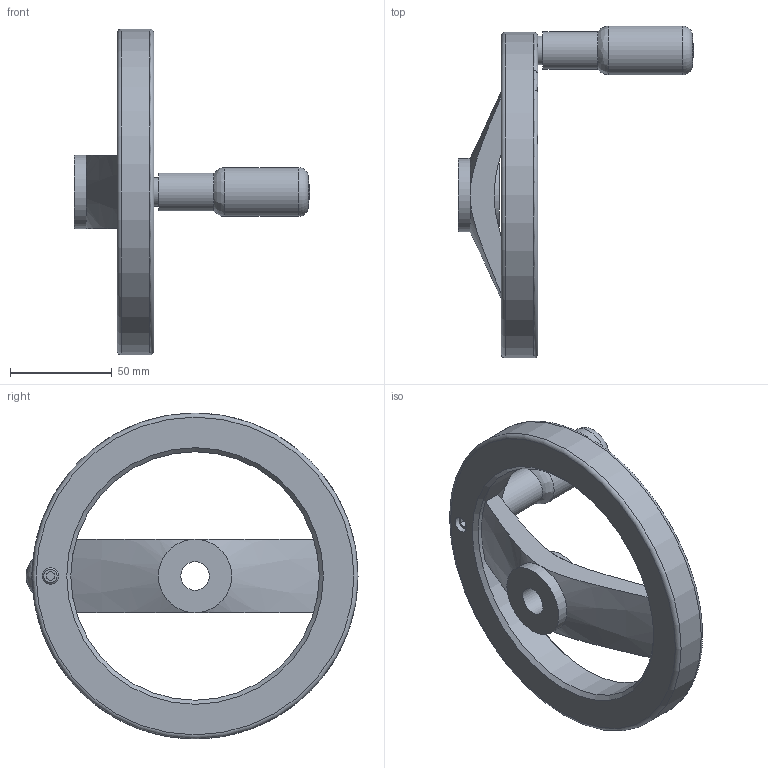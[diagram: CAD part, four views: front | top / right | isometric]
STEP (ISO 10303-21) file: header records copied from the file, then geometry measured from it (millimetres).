
FILE_DESCRIPTION( ( 'STEP AP203' ), '1' );
FILE_NAME( 'C:/Temp/Ganter_Step_05_03_2020/data/1_3/gn_324/gn_324_b/gn_324_b_d/Handwheel, matt black GN 324-160-B14-R.stp', '2020-03-05T10:32:57', ( 'License CC BY-ND 4.0' ), ( 'CADENAS' ), ' ', 'PARTsolutions', ' ' );
FILE_SCHEMA( ( 'CONFIG_CONTROL_DESIGN' ) );
Length unit declared in the file: millimetre
Products named in the file (1): _Handwheel, matt black GN 324-160-B14-R
Bounding box: 115.5 x 163 x 160 mm (x, y, z)
Volume: 228699.2 mm3; surface area: 49511.5 mm2
Topology: 1 solids, 2 shells, 40 faces, 88 edges, 53 vertices
Faces by surface type: plane 16, cylinder 11, cone 8, torus 3, bspline 1, sphere 1
Full cylindrical faces by diameter (mm): 6.446 x1, 8 x2, 14 x2, 18.5 x1, 24 x1, 36 x2, 122 x1, 160 x1
Entity records: 1167 total; most frequent: CARTESIAN_POINT 326, DIRECTION 170, ORIENTED_EDGE 128, AXIS2_PLACEMENT_3D 74, EDGE_LOOP 69, EDGE_CURVE 64, FACE_OUTER_BOUND 55, VERTEX_POINT 50
